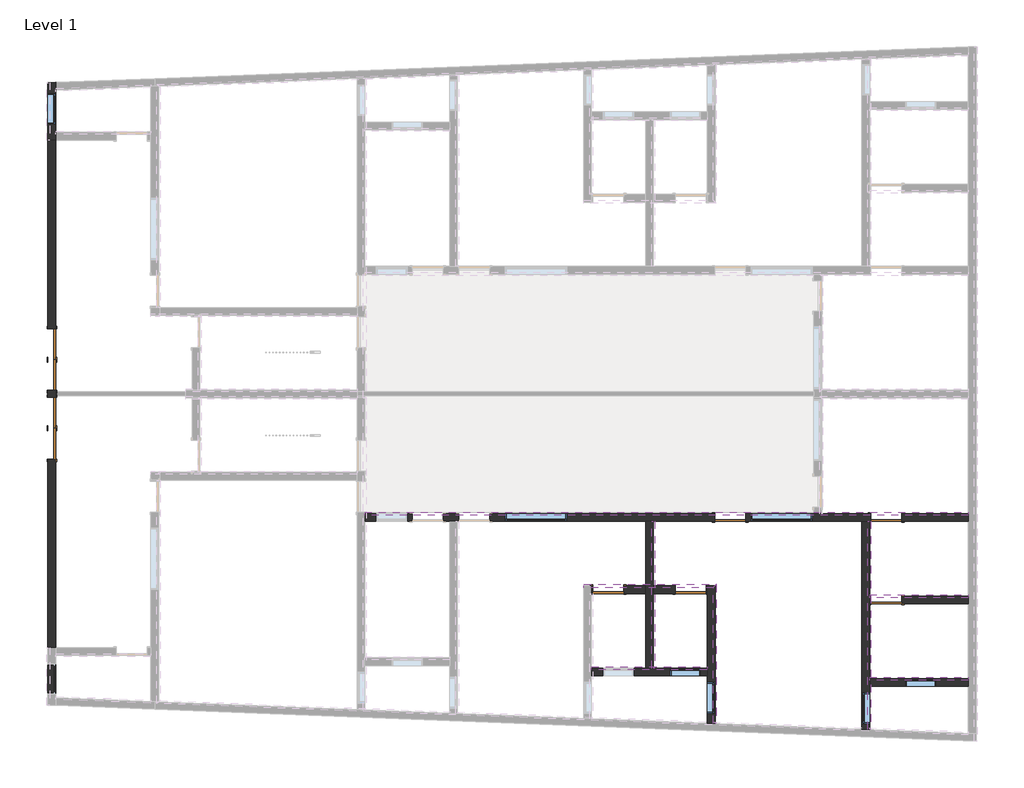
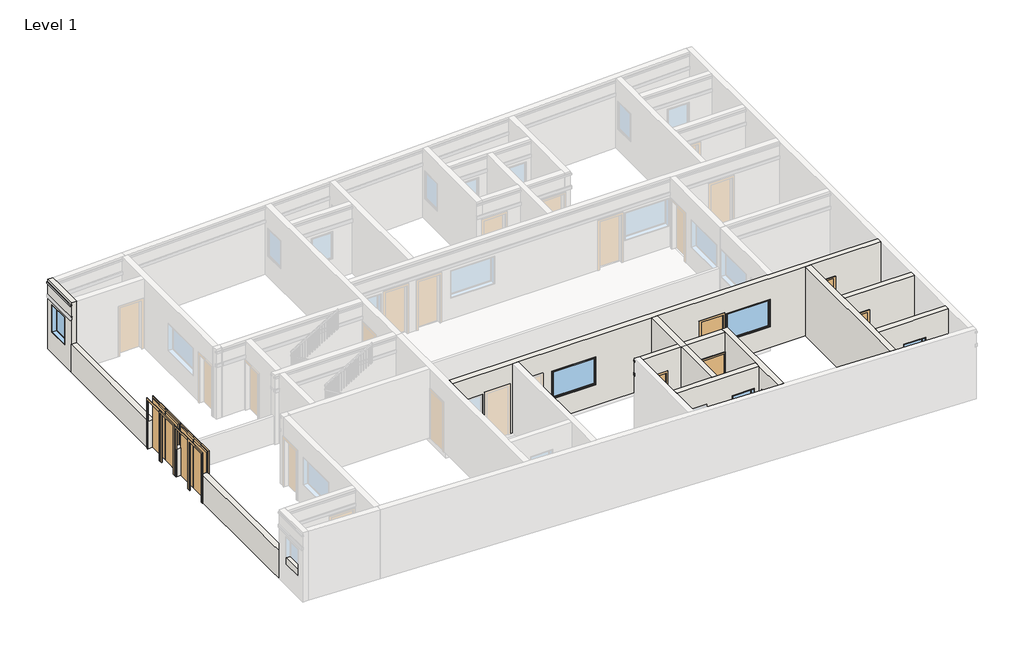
# One storey, part 2 of 5: 17 proxies, 10 walls, 9 doors, 7 windows.
"""IFC4 building model written with IfcOpenShell, lengths in millimetres."""

from ifc_helpers import new_model, si_unit, frame, origin, place, context, project, spatial, polyline, outline, extrude, faceted_brep, transform, mapped, element, save
from components import door_0ca8825f, door_a90ba1ad, window_c1f32544, window_26734613, fixed_6_x4_596a66d7

model = new_model("IFC4")

# Units and contexts
model_context = context("Model", 3, world=origin())
ifc_project = project(units=[si_unit("LENGTHUNIT", "METRE", prefix="MILLI")], contexts=[model_context])

# Site, building, storey
site = spatial("IfcSite", under=ifc_project)
building = spatial("IfcBuilding", under=site)
storey = spatial("IfcBuildingStorey", under=building, Name="Level 1", Elevation=0.0)

# Proxies
placement = place(None, origin())
element("IfcBuildingElementProxy", 1, Name="Reveals", at=placement, inside=storey, context=model_context, shape_type="SweptSolid", body=[
    extrude(outline(polyline([(-17227.4642301, 12662.6112925), (-17135.3892301, 12666.1919869), (-17135.3892301, 10962.8239224), (-17227.4642301, 10962.8239224), (-17227.4642301, 12662.6112925)])), frame((0.0, 0.0, 2895.6), z_axis=(0.0, 0.0, 1.0), x_axis=(1.0, 0.0, 0.0)), (0.0, 0.0, 1.0), 67.7333333),
])
element("IfcBuildingElementProxy", 2, Name="Reveals", at=placement, inside=storey, context=model_context, shape_type="SweptSolid", body=[
    extrude(outline(polyline([(-7813.5892301, -136.9760776), (-7813.5892301, -44.9010776), (10042.6107699, -44.9010776), (10042.6107699, -136.9760776), (-7813.5892301, -136.9760776)])), frame((0.0, 0.0, 2895.6), z_axis=(0.0, 0.0, 1.0), x_axis=(1.0, 0.0, 0.0)), (0.0, 0.0, 1.0), 67.7333333),
])
element("IfcBuildingElementProxy", 3, Name="Reveals", at=placement, inside=storey, context=model_context, shape_type="SweptSolid", body=[
    extrude(outline(polyline([(670.0107699, -314.7760776), (762.0857699, -314.7760776), (762.0857699, -4658.1760776), (670.0107699, -4658.1760776), (670.0107699, -314.7760776)])), frame((0.0, 0.0, 2895.6), z_axis=(0.0, 0.0, 1.0), x_axis=(1.0, 0.0, 0.0)), (0.0, 0.0, 1.0), 67.7333333),
])
element("IfcBuildingElementProxy", 4, Name="Reveals", at=placement, inside=storey, context=model_context, shape_type="SweptSolid", body=[
    extrude(outline(polyline([(2498.8107699, -2270.5760776), (2590.8857699, -2178.5010776), (2590.8857699, -6288.6991242), (2498.8107699, -6288.6991242), (2498.8107699, -2270.5760776)])), frame((0.0, 0.0, 2895.6), z_axis=(0.0, 0.0, 1.0), x_axis=(1.0, 0.0, 0.0)), (0.0, 0.0, 1.0), 67.7333333),
])
element("IfcBuildingElementProxy", 5, Name="Reveals", at=placement, inside=storey, context=model_context, shape_type="SweptSolid", body=[
    extrude(outline(polyline([(7070.8107699, -314.7760776), (7162.8857699, -314.7760776), (7162.8857699, -6466.4991242), (7070.8107699, -6466.4991242), (7070.8107699, -314.7760776)])), frame((0.0, 0.0, 2895.6), z_axis=(0.0, 0.0, 1.0), x_axis=(1.0, 0.0, 0.0)), (0.0, 0.0, 1.0), 67.7333333),
])
element("IfcBuildingElementProxy", 6, Name="Reveals", at=placement, inside=storey, context=model_context, shape_type="SweptSolid", body=[
    extrude(outline(polyline([(-1107.9892301, -4708.9760776), (-1107.9892301, -4616.9010776), (2321.0107699, -4616.9010776), (2321.0107699, -4708.9760776), (-1107.9892301, -4708.9760776)])), frame((0.0, 0.0, 2895.6), z_axis=(0.0, 0.0, 1.0), x_axis=(1.0, 0.0, 0.0)), (0.0, 0.0, 1.0), 67.7333333),
])
element("IfcBuildingElementProxy", 7, Name="Reveals", at=placement, inside=storey, context=model_context, shape_type="SweptSolid", body=[
    extrude(outline(polyline([(7121.6107699, -2575.3760776), (7121.6107699, -2483.3010776), (10042.6107699, -2483.3010776), (10042.6107699, -2575.3760776), (7121.6107699, -2575.3760776)])), frame((0.0, 0.0, 2895.6), z_axis=(0.0, 0.0, 1.0), x_axis=(1.0, 0.0, 0.0)), (0.0, 0.0, 1.0), 67.7333333),
])
element("IfcBuildingElementProxy", 8, Name="Reveals", at=placement, inside=storey, context=model_context, shape_type="SweptSolid", body=[
    extrude(outline(polyline([(7121.6107699, -5013.7760776), (7121.6107699, -4921.7010776), (10042.6107699, -4921.7010776), (10042.6107699, -5013.7760776), (7121.6107699, -5013.7760776)])), frame((0.0, 0.0, 2895.6), z_axis=(0.0, 0.0, 1.0), x_axis=(1.0, 0.0, 0.0)), (0.0, 0.0, 1.0), 67.7333333),
])
element("IfcBuildingElementProxy", 9, Name="Reveals", at=placement, inside=storey, context=model_context, shape_type="SweptSolid", body=[
    extrude(outline(polyline([(-1336.5892301, -2270.5760776), (-1336.5892301, -2178.5010776), (2590.8857699, -2178.5010776), (2498.8107699, -2270.5760776), (-1336.5892301, -2270.5760776)])), frame((0.0, 0.0, 2895.6), z_axis=(0.0, 0.0, 1.0), x_axis=(1.0, 0.0, 0.0)), (0.0, 0.0, 1.0), 67.7333333),
])
element("IfcBuildingElementProxy", 10, Name="Reveals", at=placement, inside=storey, context=model_context, shape_type="SweptSolid", body=[
    extrude(outline(polyline([(-7813.5892301, -136.9760776), (-7813.5892301, -44.9010776), (10042.6107699, -44.9010776), (10042.6107699, -136.9760776), (-7813.5892301, -136.9760776)])), frame((0.0, 0.0, 2286.0), z_axis=(0.0, 0.0, 1.0), x_axis=(1.0, 0.0, 0.0)), (0.0, 0.0, 1.0), 135.4666667),
])
element("IfcBuildingElementProxy", 11, Name="Reveals", at=placement, inside=storey, context=model_context, shape_type="SweptSolid", body=[
    extrude(outline(polyline([(670.0107699, -314.7760776), (762.0857699, -314.7760776), (762.0857699, -4658.1760776), (670.0107699, -4658.1760776), (670.0107699, -314.7760776)])), frame((0.0, 0.0, 2286.0), z_axis=(0.0, 0.0, 1.0), x_axis=(1.0, 0.0, 0.0)), (0.0, 0.0, 1.0), 135.4666667),
])
element("IfcBuildingElementProxy", 12, Name="Reveals", at=placement, inside=storey, context=model_context, shape_type="SweptSolid", body=[
    extrude(outline(polyline([(2498.8107699, -2270.5760776), (2590.8857699, -2178.5010776), (2590.8857699, -6288.6991242), (2498.8107699, -6288.6991242), (2498.8107699, -2270.5760776)])), frame((0.0, 0.0, 2286.0), z_axis=(0.0, 0.0, 1.0), x_axis=(1.0, 0.0, 0.0)), (0.0, 0.0, 1.0), 135.4666667),
])
element("IfcBuildingElementProxy", 13, Name="Reveals", at=placement, inside=storey, context=model_context, shape_type="SweptSolid", body=[
    extrude(outline(polyline([(7070.8107699, -314.7760776), (7162.8857699, -314.7760776), (7162.8857699, -6466.4991242), (7070.8107699, -6466.4991242), (7070.8107699, -314.7760776)])), frame((0.0, 0.0, 2286.0), z_axis=(0.0, 0.0, 1.0), x_axis=(1.0, 0.0, 0.0)), (0.0, 0.0, 1.0), 135.4666667),
])
element("IfcBuildingElementProxy", 14, Name="Reveals", at=placement, inside=storey, context=model_context, shape_type="SweptSolid", body=[
    extrude(outline(polyline([(-1107.9892301, -4708.9760776), (-1107.9892301, -4616.9010776), (2321.0107699, -4616.9010776), (2321.0107699, -4708.9760776), (-1107.9892301, -4708.9760776)])), frame((0.0, 0.0, 2286.0), z_axis=(0.0, 0.0, 1.0), x_axis=(1.0, 0.0, 0.0)), (0.0, 0.0, 1.0), 135.4666667),
])
element("IfcBuildingElementProxy", 15, Name="Reveals", at=placement, inside=storey, context=model_context, shape_type="SweptSolid", body=[
    extrude(outline(polyline([(7121.6107699, -2575.3760776), (7121.6107699, -2483.3010776), (10042.6107699, -2483.3010776), (10042.6107699, -2575.3760776), (7121.6107699, -2575.3760776)])), frame((0.0, 0.0, 2286.0), z_axis=(0.0, 0.0, 1.0), x_axis=(1.0, 0.0, 0.0)), (0.0, 0.0, 1.0), 135.4666667),
])
element("IfcBuildingElementProxy", 16, Name="Reveals", at=placement, inside=storey, context=model_context, shape_type="SweptSolid", body=[
    extrude(outline(polyline([(7121.6107699, -5013.7760776), (7121.6107699, -4921.7010776), (10042.6107699, -4921.7010776), (10042.6107699, -5013.7760776), (7121.6107699, -5013.7760776)])), frame((0.0, 0.0, 2286.0), z_axis=(0.0, 0.0, 1.0), x_axis=(1.0, 0.0, 0.0)), (0.0, 0.0, 1.0), 135.4666667),
])
element("IfcBuildingElementProxy", 17, Name="Reveals", at=placement, inside=storey, context=model_context, shape_type="SweptSolid", body=[
    extrude(outline(polyline([(-1336.5892301, -2270.5760776), (-1336.5892301, -2178.5010776), (2590.8857699, -2178.5010776), (2498.8107699, -2270.5760776), (-1336.5892301, -2270.5760776)])), frame((0.0, 0.0, 2286.0), z_axis=(0.0, 0.0, 1.0), x_axis=(1.0, 0.0, 0.0)), (0.0, 0.0, 1.0), 135.4666667),
])

# Doors
door_shape = door_0ca8825f(model_context)
element("IfcDoor", 18, ObjectType="Single-Flush : 36\" x 84\"", at=placement, inside=storey, context=model_context, shape_type="MappedRepresentation", body=[
    mapped(door_shape, transform((-17071.8892301, 4015.9239224, 0.0), x_axis=(0.0, -1.0, 0.0), y_axis=(1.0, 0.0, 0.0), z_axis=(0.0, 0.0, 1.0))),
])
element("IfcDoor", 19, ObjectType="Single-Flush : 36\" x 84\"", at=placement, inside=storey, context=model_context, shape_type="MappedRepresentation", body=[
    mapped(door_shape, transform((-612.6892301, -2334.0760776, 0.0), x_axis=(-1.0, 0.0, 0.0), y_axis=(0.0, -1.0, 0.0), z_axis=(0.0, 0.0, 1.0))),
])
element("IfcDoor", 20, ObjectType="Single-Flush : 36\" x 84\"", at=placement, inside=storey, context=model_context, shape_type="MappedRepresentation", body=[
    mapped(door_shape, transform((7616.9107699, -200.4760776, 0.0), x_axis=(-1.0, 0.0, 0.0), y_axis=(0.0, -1.0, 0.0), z_axis=(0.0, 0.0, 1.0))),
])
element("IfcDoor", 21, ObjectType="Single-Flush : 36\" x 84\"", at=placement, inside=storey, context=model_context, shape_type="MappedRepresentation", body=[
    mapped(door_shape, transform((2994.1107699, -200.4760776, 0.0), x_axis=(-1.0, 0.0, 0.0), y_axis=(0.0, -1.0, 0.0), z_axis=(0.0, 0.0, 1.0))),
])
element("IfcDoor", 22, ObjectType="Single-Flush : 36\" x 84\"", at=placement, inside=storey, context=model_context, shape_type="MappedRepresentation", body=[
    mapped(door_shape, transform((-17071.8892301, 1983.9239224, 0.0), x_axis=(0.0, -1.0, 0.0), y_axis=(1.0, 0.0, 0.0), z_axis=(0.0, 0.0, 1.0))),
])
element("IfcDoor", 23, ObjectType="Single-Flush : 36\" x 84\"", at=placement, inside=storey, context=model_context, shape_type="MappedRepresentation", body=[
    mapped(door_shape, transform((7616.9107699, -2638.8760776, 0.0), x_axis=(-1.0, 0.0, 0.0), y_axis=(0.0, -1.0, 0.0), z_axis=(0.0, 0.0, 1.0))),
])
door_2_shape = door_a90ba1ad(model_context)
element("IfcDoor", 24, ObjectType="Single-Flush : 36\" x 84\"", at=placement, inside=storey, context=model_context, shape_type="MappedRepresentation", body=[
    mapped(door_2_shape, transform((-17071.8892301, 4930.3239224, 0.0), x_axis=(0.0, 1.0, 0.0), y_axis=(-1.0, 0.0, 0.0), z_axis=(0.0, 0.0, 1.0))),
])
element("IfcDoor", 25, ObjectType="Single-Flush : 36\" x 84\"", at=placement, inside=storey, context=model_context, shape_type="MappedRepresentation", body=[
    mapped(door_2_shape, transform((1825.7107699, -2334.0760776, 0.0), x_axis=(1.0, 0.0, 0.0), y_axis=(0.0, 1.0, 0.0), z_axis=(0.0, 0.0, 1.0))),
])
element("IfcDoor", 26, ObjectType="Single-Flush : 36\" x 84\"", at=placement, inside=storey, context=model_context, shape_type="MappedRepresentation", body=[
    mapped(door_2_shape, transform((-17071.8892301, 2898.3239224, 0.0), x_axis=(0.0, 1.0, 0.0), y_axis=(-1.0, 0.0, 0.0), z_axis=(0.0, 0.0, 1.0))),
])

# Walls
element("IfcWall", 27, ObjectType="9\" thick brick wall", at=placement, inside=storey, context=model_context, shape_type="Brep", body=[
    faceted_brep([(-17186.1892301, 12664.2164314, 0.0), (-17186.1892301, 10962.8239224, 0.0), (-17186.1892301, 10962.8239224, 1219.2), (-17186.1892301, 10962.8239224, 2286.0), (-17186.1892301, 12664.2164314, 2286.0), (-17186.1892301, 11432.7239224, 2133.6), (-17186.1892301, 11432.7239224, 914.4), (-17186.1892301, 12347.1239224, 914.4), (-17186.1892301, 12347.1239224, 2133.6), (-17186.1892301, 10962.8239224, 3048.0), (-17186.1892301, 12664.2164314, 3048.0), (-17186.1892301, 12664.2164314, 2963.3333333), (-17186.1892301, 10962.8239224, 2963.3333333), (-17186.1892301, 10962.8239224, 2895.6), (-17186.1892301, 12664.2164314, 2895.6), (-17186.1892301, 12664.2164314, 2421.4666667), (-17186.1892301, 10962.8239224, 2421.4666667), (-16957.5892301, 10962.8239224, 0.0), (-16957.5892301, 11191.4239224, 0.0), (-16957.5892301, 12444.3336356, 0.0), (-16957.5892301, 12673.1064314, 0.0), (-16957.5892301, 12673.1064314, 3048.0), (-16957.5892301, 12444.3336356, 3048.0), (-16957.5892301, 11191.4239224, 3048.0), (-16957.5892301, 10962.8239224, 3048.0), (-16957.5892301, 11432.7239224, 914.4), (-16957.5892301, 11432.7239224, 2133.6), (-16957.5892301, 12347.1239224, 2133.6), (-16957.5892301, 12347.1239224, 914.4), (-17135.3892301, 12666.1919869, 2286.0), (-17135.3892301, 12666.1919869, 2421.4666667), (-17135.3892301, 12666.1919869, 2895.6), (-17135.3892301, 12666.1919869, 2963.3333333), (-17135.3892301, 10962.8239224, 2963.3333333), (-17135.3892301, 10962.8239224, 2895.6), (-17135.3892301, 10962.8239224, 2421.4666667), (-17135.3892301, 10962.8239224, 2286.0)], [[[0, 1, 2, 3, 4], [5, 6, 7, 8]], [[9, 10, 11, 12]], [[13, 14, 15, 16]], [[17, 18, 19, 20, 21, 22, 23, 24], [25, 26, 27, 28]], [[1, 0, 20, 19, 18, 17]], [[10, 9, 24, 23, 22, 21]], [[10, 21, 20, 0, 4, 29, 30, 15, 14, 31, 32, 11]], [[1, 17, 24, 9, 12, 33, 34, 13, 16, 35, 36, 3, 2]], [[6, 5, 26, 25]], [[7, 6, 25, 28]], [[8, 7, 28, 27]], [[5, 8, 27, 26]], [[33, 32, 31, 34]], [[34, 31, 14, 13]], [[32, 33, 12, 11]], [[35, 30, 29, 36]], [[36, 29, 4, 3]], [[30, 35, 16, 15]]]),
])
element("IfcWall", 28, ObjectType="9\" thick brick wall", at=placement, inside=storey, context=model_context, shape_type="Brep", body=[
    faceted_brep([(-17186.1892301, 10962.8239224, 1219.2), (-17186.1892301, 10962.8239224, 0.0), (-17186.1892301, 5387.5239224, 0.0), (-17186.1892301, 5387.5239224, 1219.2), (-16957.5892301, 10962.8239224, 0.0), (-16957.5892301, 10962.8239224, 1219.2), (-16957.5892301, 5387.5239224, 1219.2), (-16957.5892301, 5387.5239224, 0.0)], [[[0, 1, 2, 3]], [[4, 5, 6, 7]], [[1, 4, 7, 2]], [[5, 0, 3, 6]], [[1, 0, 5, 4]], [[3, 2, 7, 6]]]),
    faceted_brep([(-17186.1892301, -5521.1957908, 0.0), (-17186.1892301, -5521.1957908, 1219.2), (-17186.1892301, 1526.7239224, 1219.2), (-17186.1892301, 1526.7239224, 0.0), (-16957.5892301, -5530.0857908, 1219.2), (-16957.5892301, -5530.0857908, 0.0), (-16957.5892301, 1526.7239224, 0.0), (-16957.5892301, 1526.7239224, 1219.2)], [[[0, 1, 2, 3]], [[4, 5, 6, 7]], [[5, 0, 3, 6]], [[1, 4, 7, 2]], [[1, 0, 5, 4]], [[3, 2, 7, 6]]]),
    faceted_brep([(-17186.1892301, 3558.7239224, 1219.2), (-17186.1892301, 3558.7239224, 0.0), (-17186.1892301, 3355.5239224, 0.0), (-17186.1892301, 3355.5239224, 1219.2), (-16957.5892301, 3558.7239224, 0.0), (-16957.5892301, 3558.7239224, 1219.2), (-16957.5892301, 3514.2739224, 1219.2), (-16957.5892301, 3399.9739224, 1219.2), (-16957.5892301, 3355.5239224, 1219.2), (-16957.5892301, 3355.5239224, 0.0), (-16957.5892301, 3399.9739224, 0.0), (-16957.5892301, 3514.2739224, 0.0)], [[[0, 1, 2, 3]], [[4, 5, 6, 7, 8, 9, 10, 11]], [[1, 4, 11, 10, 9, 2]], [[5, 0, 3, 8, 7, 6]], [[1, 0, 5, 4]], [[3, 2, 9, 8]]]),
])
element("IfcWall", 29, ObjectType="9\" thick brick wall", at=placement, inside=storey, context=model_context, shape_type="Brep", body=[
    faceted_brep([(10042.6107699, -314.7760776, 3048.0), (7121.6107699, -314.7760776, 3048.0), (6893.0107699, -314.7760776, 3048.0), (720.8107699, -314.7760776, 3048.0), (492.2107699, -314.7760776, 3048.0), (-5070.3892301, -314.7760776, 3048.0), (-5298.9892301, -314.7760776, 3048.0), (-7813.5892301, -314.7760776, 3048.0), (-7813.5892301, -314.7760776, 0.0), (-6403.8892301, -314.7760776, 0.0), (-6403.8892301, -314.7760776, 2133.6), (-5489.4892301, -314.7760776, 2133.6), (-5489.4892301, -314.7760776, 0.0), (-5298.9892301, -314.7760776, 0.0), (-5070.3892301, -314.7760776, 0.0), (-5032.2892301, -314.7760776, 0.0), (-5032.2892301, -314.7760776, 2133.6), (-4117.8892301, -314.7760776, 2133.6), (-4117.8892301, -314.7760776, 0.0), (492.2107699, -314.7760776, 0.0), (720.8107699, -314.7760776, 0.0), (2536.9107699, -314.7760776, 0.0), (2536.9107699, -314.7760776, 2133.6), (3451.3107699, -314.7760776, 2133.6), (3451.3107699, -314.7760776, 0.0), (6893.0107699, -314.7760776, 0.0), (7121.6107699, -314.7760776, 0.0), (7159.7107699, -314.7760776, 0.0), (7159.7107699, -314.7760776, 2133.6), (8074.1107699, -314.7760776, 2133.6), (8074.1107699, -314.7760776, 0.0), (10042.6107699, -314.7760776, 0.0), (-1831.8892301, -314.7760776, 2133.6), (-1831.8892301, -314.7760776, 914.4), (-3660.6892301, -314.7760776, 914.4), (-3660.6892301, -314.7760776, 2133.6), (5432.5107699, -314.7760776, 2133.6), (5432.5107699, -314.7760776, 914.4), (3603.7107699, -314.7760776, 914.4), (3603.7107699, -314.7760776, 2133.6), (-7470.6892301, -314.7760776, 914.4), (-7470.6892301, -314.7760776, 2133.6), (-6556.2892301, -314.7760776, 2133.6), (-6556.2892301, -314.7760776, 914.4), (-7813.5892301, -86.1760776, 3048.0), (5470.6107699, -86.1760776, 3048.0), (5699.2107699, -86.1760776, 3048.0), (10042.6107699, -86.1760776, 3048.0), (10042.6107699, -86.1760776, 2963.3333333), (5699.2107699, -86.1760776, 2963.3333333), (5648.4107699, -86.1760776, 2963.3333333), (-7813.5892301, -86.1760776, 2963.3333333), (-5489.4892301, -86.1760776, 0.0), (-5489.4892301, -86.1760776, 2133.6), (-6403.8892301, -86.1760776, 2133.6), (-6403.8892301, -86.1760776, 0.0), (-7813.5892301, -86.1760776, 0.0), (-7813.5892301, -86.1760776, 2286.0), (5648.4107699, -86.1760776, 2286.0), (5699.2107699, -86.1760776, 2286.0), (10042.6107699, -86.1760776, 2286.0), (10042.6107699, -86.1760776, 0.0), (8074.1107699, -86.1760776, 0.0), (8074.1107699, -86.1760776, 2133.6), (7159.7107699, -86.1760776, 2133.6), (7159.7107699, -86.1760776, 0.0), (5699.2107699, -86.1760776, 0.0), (5470.6107699, -86.1760776, 0.0), (3451.3107699, -86.1760776, 0.0), (3451.3107699, -86.1760776, 2133.6), (2536.9107699, -86.1760776, 2133.6), (2536.9107699, -86.1760776, 0.0), (-4117.8892301, -86.1760776, 0.0), (-4117.8892301, -86.1760776, 2133.6), (-5032.2892301, -86.1760776, 2133.6), (-5032.2892301, -86.1760776, 0.0), (-1831.8892301, -86.1760776, 914.4), (-1831.8892301, -86.1760776, 2133.6), (-3660.6892301, -86.1760776, 2133.6), (-3660.6892301, -86.1760776, 914.4), (5432.5107699, -86.1760776, 914.4), (5432.5107699, -86.1760776, 2133.6), (3603.7107699, -86.1760776, 2133.6), (3603.7107699, -86.1760776, 914.4), (-7470.6892301, -86.1760776, 2133.6), (-7470.6892301, -86.1760776, 914.4), (-6556.2892301, -86.1760776, 914.4), (-6556.2892301, -86.1760776, 2133.6), (-7813.5892301, -86.1760776, 2895.6), (5648.4107699, -86.1760776, 2895.6), (5699.2107699, -86.1760776, 2895.6), (10042.6107699, -86.1760776, 2895.6), (10042.6107699, -86.1760776, 2421.4666667), (5699.2107699, -86.1760776, 2421.4666667), (5648.4107699, -86.1760776, 2421.4666667), (-7813.5892301, -86.1760776, 2421.4666667), (-7813.5892301, -136.9760776, 2963.3333333), (-7813.5892301, -136.9760776, 2895.6), (-7813.5892301, -136.9760776, 2421.4666667), (-7813.5892301, -136.9760776, 2286.0), (10042.6107699, -136.9760776, 2286.0), (10042.6107699, -136.9760776, 2421.4666667), (10042.6107699, -136.9760776, 2895.6), (10042.6107699, -136.9760776, 2963.3333333)], [[[0, 1, 2, 3, 4, 5, 6, 7, 8, 9, 10, 11, 12, 13, 14, 15, 16, 17, 18, 19, 20, 21, 22, 23, 24, 25, 26, 27, 28, 29, 30, 31], [32, 33, 34, 35], [36, 37, 38, 39], [40, 41, 42, 43]], [[44, 45, 46, 47, 48, 49, 50, 51]], [[52, 53, 54, 55, 56, 57, 58, 59, 60, 61, 62, 63, 64, 65, 66, 67, 68, 69, 70, 71, 72, 73, 74, 75], [76, 77, 78, 79], [80, 81, 82, 83], [84, 85, 86, 87]], [[88, 89, 90, 91, 92, 93, 94, 95]], [[8, 56, 55, 9]], [[61, 31, 30, 62]], [[12, 52, 75, 15, 14, 13]], [[18, 72, 71, 21, 20, 19]], [[65, 27, 26, 25, 24, 68, 67, 66]], [[7, 6, 5, 4, 3, 2, 1, 0, 47, 46, 45, 44]], [[8, 7, 44, 51, 96, 97, 88, 95, 98, 99, 57, 56]], [[0, 31, 61, 60, 100, 101, 92, 91, 102, 103, 48, 47]], [[53, 52, 12, 11]], [[54, 53, 11, 10]], [[55, 54, 10, 9]], [[16, 15, 75, 74]], [[17, 16, 74, 73]], [[18, 17, 73, 72]], [[28, 27, 65, 64]], [[29, 28, 64, 63]], [[30, 29, 63, 62]], [[22, 21, 71, 70]], [[23, 22, 70, 69]], [[24, 23, 69, 68]], [[33, 32, 77, 76]], [[34, 33, 76, 79]], [[35, 34, 79, 78]], [[32, 35, 78, 77]], [[37, 36, 81, 80]], [[38, 37, 80, 83]], [[39, 38, 83, 82]], [[36, 39, 82, 81]], [[85, 84, 41, 40]], [[86, 85, 40, 43]], [[87, 86, 43, 42]], [[84, 87, 42, 41]], [[103, 96, 51, 50, 49, 48]], [[97, 102, 91, 90, 89, 88]], [[96, 103, 102, 97]], [[101, 98, 95, 94, 93, 92]], [[99, 100, 60, 59, 58, 57]], [[98, 101, 100, 99]]]),
])
element("IfcWall", 30, ObjectType="9\" thick brick wall", at=placement, inside=storey, context=model_context, shape_type="SweptSolid", body=[
    extrude(outline(polyline([(3048.0, 492.2107699), (0.0, 492.2107699), (0.0, 720.8107699), (2286.0, 720.8107699), (2286.0, 670.0107699), (2421.4666667, 670.0107699), (2421.4666667, 720.8107699), (2895.6, 720.8107699), (2895.6, 670.0107699), (2963.3333333, 670.0107699), (2963.3333333, 720.8107699), (3048.0, 720.8107699), (3048.0, 492.2107699)])), frame((0.0, -4658.1760776, 0.0), z_axis=(0.0, 1.0, 0.0), x_axis=(0.0, 0.0, 1.0)), (0.0, 0.0, 1.0), 4343.4),
])
element("IfcWall", 31, ObjectType="9\" thick brick wall", at=placement, inside=storey, context=model_context, shape_type="Brep", body=[
    faceted_brep([(2321.0107699, -2219.7760776, 0.0), (2321.0107699, -2448.3760776, 0.0), (2321.0107699, -4658.1760776, 0.0), (2321.0107699, -4886.7760776, 0.0), (2321.0107699, -6279.8091242, 0.0), (2321.0107699, -6279.8091242, 3048.0), (2321.0107699, -4886.7760776, 3048.0), (2321.0107699, -4658.1760776, 3048.0), (2321.0107699, -2448.3760776, 3048.0), (2321.0107699, -2219.7760776, 3048.0), (2321.0107699, -2219.7760776, 2963.3333333), (2321.0107699, -2270.5760776, 2963.3333333), (2321.0107699, -2270.5760776, 2895.6), (2321.0107699, -2219.7760776, 2895.6), (2321.0107699, -2219.7760776, 2421.4666667), (2321.0107699, -2270.5760776, 2421.4666667), (2321.0107699, -2270.5760776, 2286.0), (2321.0107699, -2219.7760776, 2286.0), (2321.0107699, -5077.2760776, 914.4), (2321.0107699, -5077.2760776, 2133.6), (2321.0107699, -5991.6760776, 2133.6), (2321.0107699, -5991.6760776, 914.4), (2549.6107699, -6288.6991242, 0.0), (2549.6107699, -2219.7760776, 0.0), (2549.6107699, -2219.7760776, 2286.0), (2549.6107699, -6288.6991242, 2286.0), (2549.6107699, -5077.2760776, 2133.6), (2549.6107699, -5077.2760776, 914.4), (2549.6107699, -5991.6760776, 914.4), (2549.6107699, -5991.6760776, 2133.6), (2549.6107699, -2219.7760776, 3048.0), (2549.6107699, -6288.6991242, 3048.0), (2549.6107699, -6288.6991242, 2963.3333333), (2549.6107699, -2219.7760776, 2963.3333333), (2549.6107699, -2219.7760776, 2895.6), (2549.6107699, -6288.6991242, 2895.6), (2549.6107699, -6288.6991242, 2421.4666667), (2549.6107699, -2219.7760776, 2421.4666667), (2498.8107699, -6286.7235686, 2286.0), (2498.8107699, -6286.7235686, 2421.4666667), (2498.8107699, -6286.7235686, 2895.6), (2498.8107699, -6286.7235686, 2963.3333333), (2498.8107699, -2270.5760776, 2963.3333333), (2498.8107699, -2270.5760776, 2895.6), (2498.8107699, -2270.5760776, 2421.4666667), (2498.8107699, -2270.5760776, 2286.0)], [[[0, 1, 2, 3, 4, 5, 6, 7, 8, 9, 10, 11, 12, 13, 14, 15, 16, 17], [18, 19, 20, 21]], [[22, 23, 24, 25], [26, 27, 28, 29]], [[30, 31, 32, 33]], [[34, 35, 36, 37]], [[4, 3, 2, 1, 0, 23, 22]], [[9, 8, 7, 6, 5, 31, 30]], [[9, 30, 33, 10]], [[23, 0, 17, 24]], [[13, 34, 37, 14]], [[5, 4, 22, 25, 38, 39, 36, 35, 40, 41, 32, 31]], [[27, 26, 19, 18]], [[28, 27, 18, 21]], [[29, 28, 21, 20]], [[26, 29, 20, 19]], [[41, 42, 11, 10, 33, 32]], [[12, 43, 40, 35, 34, 13]], [[42, 43, 12, 11]], [[43, 42, 41, 40]], [[39, 44, 15, 14, 37, 36]], [[16, 45, 38, 25, 24, 17]], [[44, 45, 16, 15]], [[45, 44, 39, 38]]]),
])
element("IfcWall", 32, ObjectType="9\" thick brick wall", at=placement, inside=storey, context=model_context, shape_type="Brep", body=[
    faceted_brep([(6893.0107699, -314.7760776, 0.0), (6893.0107699, -6457.6091242, 0.0), (6893.0107699, -6457.6091242, 3048.0), (6893.0107699, -314.7760776, 3048.0), (6893.0107699, -6296.4760776, 2133.6), (6893.0107699, -6296.4760776, 914.4), (6893.0107699, -5382.0760776, 914.4), (6893.0107699, -5382.0760776, 2133.6), (7121.6107699, -6466.4991242, 0.0), (7121.6107699, -5191.5760776, 0.0), (7121.6107699, -4962.9760776, 0.0), (7121.6107699, -2753.1760776, 0.0), (7121.6107699, -2524.5760776, 0.0), (7121.6107699, -314.7760776, 0.0), (7121.6107699, -314.7760776, 2286.0), (7121.6107699, -6466.4991242, 2286.0), (7121.6107699, -6296.4760776, 914.4), (7121.6107699, -6296.4760776, 2133.6), (7121.6107699, -5382.0760776, 2133.6), (7121.6107699, -5382.0760776, 914.4), (7121.6107699, -314.7760776, 3048.0), (7121.6107699, -2524.5760776, 3048.0), (7121.6107699, -2753.1760776, 3048.0), (7121.6107699, -4962.9760776, 3048.0), (7121.6107699, -5191.5760776, 3048.0), (7121.6107699, -6466.4991242, 3048.0), (7121.6107699, -6466.4991242, 2963.3333333), (7121.6107699, -314.7760776, 2963.3333333), (7121.6107699, -314.7760776, 2895.6), (7121.6107699, -6466.4991242, 2895.6), (7121.6107699, -6466.4991242, 2421.4666667), (7121.6107699, -314.7760776, 2421.4666667), (7070.8107699, -314.7760776, 2963.3333333), (7070.8107699, -314.7760776, 2895.6), (7070.8107699, -314.7760776, 2421.4666667), (7070.8107699, -314.7760776, 2286.0), (7070.8107699, -6464.5235686, 2286.0), (7070.8107699, -6464.5235686, 2421.4666667), (7070.8107699, -6464.5235686, 2895.6), (7070.8107699, -6464.5235686, 2963.3333333)], [[[0, 1, 2, 3], [4, 5, 6, 7]], [[8, 9, 10, 11, 12, 13, 14, 15], [16, 17, 18, 19]], [[20, 21, 22, 23, 24, 25, 26, 27]], [[28, 29, 30, 31]], [[1, 0, 13, 12, 11, 10, 9, 8]], [[3, 2, 25, 24, 23, 22, 21, 20]], [[0, 3, 20, 27, 32, 33, 28, 31, 34, 35, 14, 13]], [[2, 1, 8, 15, 36, 37, 30, 29, 38, 39, 26, 25]], [[5, 4, 17, 16]], [[6, 5, 16, 19]], [[7, 6, 19, 18]], [[4, 7, 18, 17]], [[39, 32, 27, 26]], [[33, 38, 29, 28]], [[38, 33, 32, 39]], [[37, 34, 31, 30]], [[35, 36, 15, 14]], [[34, 37, 36, 35]]]),
])
element("IfcWall", 33, ObjectType="9\" thick brick wall", at=placement, inside=storey, context=model_context, shape_type="Brep", body=[
    faceted_brep([(-1107.9892301, -4886.7760776, 0.0), (2321.0107699, -4886.7760776, 0.0), (2321.0107699, -4886.7760776, 3048.0), (-1107.9892301, -4886.7760776, 3048.0), (1216.1107699, -4886.7760776, 914.4), (1216.1107699, -4886.7760776, 2133.6), (2130.5107699, -4886.7760776, 2133.6), (2130.5107699, -4886.7760776, 914.4), (-765.0892301, -4886.7760776, 914.4), (-765.0892301, -4886.7760776, 2133.6), (149.3107699, -4886.7760776, 2133.6), (149.3107699, -4886.7760776, 914.4), (2321.0107699, -4658.1760776, 0.0), (720.8107699, -4658.1760776, 0.0), (492.2107699, -4658.1760776, 0.0), (-1107.9892301, -4658.1760776, 0.0), (-1107.9892301, -4658.1760776, 2286.0), (670.0107699, -4658.1760776, 2286.0), (720.8107699, -4658.1760776, 2286.0), (2321.0107699, -4658.1760776, 2286.0), (1216.1107699, -4658.1760776, 2133.6), (1216.1107699, -4658.1760776, 914.4), (2130.5107699, -4658.1760776, 914.4), (2130.5107699, -4658.1760776, 2133.6), (-765.0892301, -4658.1760776, 2133.6), (-765.0892301, -4658.1760776, 914.4), (149.3107699, -4658.1760776, 914.4), (149.3107699, -4658.1760776, 2133.6), (-1107.9892301, -4658.1760776, 3048.0), (492.2107699, -4658.1760776, 3048.0), (720.8107699, -4658.1760776, 3048.0), (2321.0107699, -4658.1760776, 3048.0), (2321.0107699, -4658.1760776, 2963.3333333), (720.8107699, -4658.1760776, 2963.3333333), (670.0107699, -4658.1760776, 2963.3333333), (-1107.9892301, -4658.1760776, 2963.3333333), (-1107.9892301, -4658.1760776, 2895.6), (670.0107699, -4658.1760776, 2895.6), (720.8107699, -4658.1760776, 2895.6), (2321.0107699, -4658.1760776, 2895.6), (2321.0107699, -4658.1760776, 2421.4666667), (720.8107699, -4658.1760776, 2421.4666667), (670.0107699, -4658.1760776, 2421.4666667), (-1107.9892301, -4658.1760776, 2421.4666667), (-1107.9892301, -4708.9760776, 2963.3333333), (-1107.9892301, -4708.9760776, 2895.6), (-1107.9892301, -4708.9760776, 2421.4666667), (-1107.9892301, -4708.9760776, 2286.0), (2321.0107699, -4708.9760776, 2286.0), (2321.0107699, -4708.9760776, 2421.4666667), (2321.0107699, -4708.9760776, 2895.6), (2321.0107699, -4708.9760776, 2963.3333333)], [[[0, 1, 2, 3], [4, 5, 6, 7], [8, 9, 10, 11]], [[12, 13, 14, 15, 16, 17, 18, 19], [20, 21, 22, 23], [24, 25, 26, 27]], [[28, 29, 30, 31, 32, 33, 34, 35]], [[36, 37, 38, 39, 40, 41, 42, 43]], [[1, 0, 15, 14, 13, 12]], [[3, 2, 31, 30, 29, 28]], [[0, 3, 28, 35, 44, 45, 36, 43, 46, 47, 16, 15]], [[2, 1, 12, 19, 48, 49, 40, 39, 50, 51, 32, 31]], [[21, 20, 5, 4]], [[22, 21, 4, 7]], [[23, 22, 7, 6]], [[20, 23, 6, 5]], [[25, 24, 9, 8]], [[26, 25, 8, 11]], [[27, 26, 11, 10]], [[24, 27, 10, 9]], [[51, 44, 35, 34, 33, 32]], [[45, 50, 39, 38, 37, 36]], [[44, 51, 50, 45]], [[49, 46, 43, 42, 41, 40]], [[47, 48, 19, 18, 17, 16]], [[46, 49, 48, 47]]]),
])
element("IfcWall", 34, ObjectType="9\" thick brick wall", at=placement, inside=storey, context=model_context, shape_type="Brep", body=[
    faceted_brep([(10042.6107699, -2753.1760776, 3048.0), (7121.6107699, -2753.1760776, 3048.0), (7121.6107699, -2753.1760776, 0.0), (7159.7107699, -2753.1760776, 0.0), (7159.7107699, -2753.1760776, 2133.6), (8074.1107699, -2753.1760776, 2133.6), (8074.1107699, -2753.1760776, 0.0), (10042.6107699, -2753.1760776, 0.0), (7121.6107699, -2524.5760776, 3048.0), (10042.6107699, -2524.5760776, 3048.0), (10042.6107699, -2524.5760776, 2963.3333333), (7121.6107699, -2524.5760776, 2963.3333333), (7159.7107699, -2524.5760776, 2133.6), (7159.7107699, -2524.5760776, 0.0), (7121.6107699, -2524.5760776, 0.0), (7121.6107699, -2524.5760776, 2286.0), (10042.6107699, -2524.5760776, 2286.0), (10042.6107699, -2524.5760776, 0.0), (8074.1107699, -2524.5760776, 0.0), (8074.1107699, -2524.5760776, 2133.6), (7121.6107699, -2524.5760776, 2895.6), (10042.6107699, -2524.5760776, 2895.6), (10042.6107699, -2524.5760776, 2421.4666667), (7121.6107699, -2524.5760776, 2421.4666667), (7121.6107699, -2575.3760776, 2963.3333333), (7121.6107699, -2575.3760776, 2895.6), (7121.6107699, -2575.3760776, 2421.4666667), (7121.6107699, -2575.3760776, 2286.0), (10042.6107699, -2575.3760776, 2286.0), (10042.6107699, -2575.3760776, 2421.4666667), (10042.6107699, -2575.3760776, 2895.6), (10042.6107699, -2575.3760776, 2963.3333333)], [[[0, 1, 2, 3, 4, 5, 6, 7]], [[8, 9, 10, 11]], [[12, 13, 14, 15, 16, 17, 18, 19]], [[20, 21, 22, 23]], [[2, 14, 13, 3]], [[17, 7, 6, 18]], [[1, 0, 9, 8]], [[2, 1, 8, 11, 24, 25, 20, 23, 26, 27, 15, 14]], [[0, 7, 17, 16, 28, 29, 22, 21, 30, 31, 10, 9]], [[4, 3, 13, 12]], [[5, 4, 12, 19]], [[6, 5, 19, 18]], [[31, 24, 11, 10]], [[25, 30, 21, 20]], [[24, 31, 30, 25]], [[29, 26, 23, 22]], [[27, 28, 16, 15]], [[26, 29, 28, 27]]]),
])
element("IfcWall", 35, ObjectType="9\" thick brick wall", at=placement, inside=storey, context=model_context, shape_type="Brep", body=[
    faceted_brep([(7121.6107699, -5191.5760776, 0.0), (10042.6107699, -5191.5760776, 0.0), (10042.6107699, -5191.5760776, 3048.0), (7121.6107699, -5191.5760776, 3048.0), (8175.7107699, -5191.5760776, 914.4), (8175.7107699, -5191.5760776, 2133.6), (9090.1107699, -5191.5760776, 2133.6), (9090.1107699, -5191.5760776, 914.4), (10042.6107699, -4962.9760776, 0.0), (7121.6107699, -4962.9760776, 0.0), (7121.6107699, -4962.9760776, 2286.0), (10042.6107699, -4962.9760776, 2286.0), (8175.7107699, -4962.9760776, 2133.6), (8175.7107699, -4962.9760776, 914.4), (9090.1107699, -4962.9760776, 914.4), (9090.1107699, -4962.9760776, 2133.6), (7121.6107699, -4962.9760776, 3048.0), (10042.6107699, -4962.9760776, 3048.0), (10042.6107699, -4962.9760776, 2963.3333333), (7121.6107699, -4962.9760776, 2963.3333333), (7121.6107699, -4962.9760776, 2895.6), (10042.6107699, -4962.9760776, 2895.6), (10042.6107699, -4962.9760776, 2421.4666667), (7121.6107699, -4962.9760776, 2421.4666667), (7121.6107699, -5013.7760776, 2963.3333333), (7121.6107699, -5013.7760776, 2895.6), (7121.6107699, -5013.7760776, 2421.4666667), (7121.6107699, -5013.7760776, 2286.0), (10042.6107699, -5013.7760776, 2286.0), (10042.6107699, -5013.7760776, 2421.4666667), (10042.6107699, -5013.7760776, 2895.6), (10042.6107699, -5013.7760776, 2963.3333333)], [[[0, 1, 2, 3], [4, 5, 6, 7]], [[8, 9, 10, 11], [12, 13, 14, 15]], [[16, 17, 18, 19]], [[20, 21, 22, 23]], [[1, 0, 9, 8]], [[3, 2, 17, 16]], [[0, 3, 16, 19, 24, 25, 20, 23, 26, 27, 10, 9]], [[2, 1, 8, 11, 28, 29, 22, 21, 30, 31, 18, 17]], [[13, 12, 5, 4]], [[14, 13, 4, 7]], [[15, 14, 7, 6]], [[12, 15, 6, 5]], [[31, 24, 19, 18]], [[25, 30, 21, 20]], [[24, 31, 30, 25]], [[29, 26, 23, 22]], [[27, 28, 11, 10]], [[26, 29, 28, 27]]]),
])
element("IfcWall", 36, ObjectType="9\" thick brick wall", at=placement, inside=storey, context=model_context, shape_type="Brep", body=[
    faceted_brep([(2321.0107699, -2448.3760776, 3048.0), (-1107.9892301, -2448.3760776, 3048.0), (-1107.9892301, -2448.3760776, 2963.3333333), (-1107.9892301, -2448.3760776, 2895.6), (-1107.9892301, -2448.3760776, 2421.4666667), (-1107.9892301, -2448.3760776, 2286.0), (-1107.9892301, -2448.3760776, 0.0), (-1069.8892301, -2448.3760776, 0.0), (-1069.8892301, -2448.3760776, 2133.6), (-155.4892301, -2448.3760776, 2133.6), (-155.4892301, -2448.3760776, 0.0), (1368.5107699, -2448.3760776, 0.0), (1368.5107699, -2448.3760776, 2133.6), (2282.9107699, -2448.3760776, 2133.6), (2282.9107699, -2448.3760776, 0.0), (2321.0107699, -2448.3760776, 0.0), (-1107.9892301, -2219.7760776, 3048.0), (2321.0107699, -2219.7760776, 3048.0), (2321.0107699, -2219.7760776, 2963.3333333), (-1107.9892301, -2219.7760776, 2963.3333333), (-1069.8892301, -2219.7760776, 2133.6), (-1069.8892301, -2219.7760776, 0.0), (-1107.9892301, -2219.7760776, 0.0), (-1107.9892301, -2219.7760776, 2286.0), (2321.0107699, -2219.7760776, 2286.0), (2321.0107699, -2219.7760776, 0.0), (2282.9107699, -2219.7760776, 0.0), (2282.9107699, -2219.7760776, 2133.6), (1368.5107699, -2219.7760776, 2133.6), (1368.5107699, -2219.7760776, 0.0), (-155.4892301, -2219.7760776, 0.0), (-155.4892301, -2219.7760776, 2133.6), (-1107.9892301, -2219.7760776, 2895.6), (2321.0107699, -2219.7760776, 2895.6), (2321.0107699, -2219.7760776, 2421.4666667), (-1107.9892301, -2219.7760776, 2421.4666667), (-1107.9892301, -2270.5760776, 2963.3333333), (-1107.9892301, -2270.5760776, 2895.6), (-1107.9892301, -2270.5760776, 2421.4666667), (-1107.9892301, -2270.5760776, 2286.0), (2321.0107699, -2270.5760776, 2286.0), (2321.0107699, -2270.5760776, 2421.4666667), (2321.0107699, -2270.5760776, 2895.6), (2321.0107699, -2270.5760776, 2963.3333333)], [[[0, 1, 2, 3, 4, 5, 6, 7, 8, 9, 10, 11, 12, 13, 14, 15]], [[16, 17, 18, 19]], [[20, 21, 22, 23, 24, 25, 26, 27, 28, 29, 30, 31]], [[32, 33, 34, 35]], [[6, 22, 21, 7]], [[25, 15, 14, 26]], [[10, 30, 29, 11]], [[1, 0, 17, 16]], [[1, 16, 19, 36, 37, 32, 35, 38, 39, 23, 22, 6, 5, 4, 3, 2]], [[0, 15, 25, 24, 40, 41, 34, 33, 42, 43, 18, 17]], [[8, 7, 21, 20]], [[9, 8, 20, 31]], [[10, 9, 31, 30]], [[27, 26, 14, 13]], [[28, 27, 13, 12]], [[29, 28, 12, 11]], [[43, 36, 19, 18]], [[37, 42, 33, 32]], [[42, 37, 36, 43]], [[41, 38, 35, 34]], [[39, 40, 24, 23]], [[38, 41, 40, 39]]]),
])

# Windows
window_shape = window_c1f32544(model_context)
element("IfcWindow", 37, ObjectType="Fixed : 36\" x 48\"", at=placement, inside=storey, context=model_context, shape_type="MappedRepresentation", body=[
    mapped(window_shape, transform((-17071.8892301, 11851.8239224, 0.0), x_axis=(0.0, -1.0, 0.0), y_axis=(1.0, 0.0, 0.0), z_axis=(0.0, 0.0, 1.0))),
])
window_2_shape = window_26734613(model_context)
element("IfcWindow", 38, ObjectType="Fixed : 36\" x 48\"", at=placement, inside=storey, context=model_context, shape_type="MappedRepresentation", body=[
    mapped(window_2_shape, transform((2435.3107699, -5496.3760776, 0.0), x_axis=(0.0, 1.0, 0.0), y_axis=(-1.0, 0.0, 0.0), z_axis=(0.0, 0.0, 1.0))),
])
element("IfcWindow", 39, ObjectType="Fixed : 36\" x 48\"", at=placement, inside=storey, context=model_context, shape_type="MappedRepresentation", body=[
    mapped(window_2_shape, transform((7007.3107699, -5877.3760776, 0.0), x_axis=(0.0, -1.0, 0.0), y_axis=(1.0, 0.0, 0.0), z_axis=(0.0, 0.0, 1.0))),
])
element("IfcWindow", 40, ObjectType="Fixed : 36\" x 48\"", at=placement, inside=storey, context=model_context, shape_type="MappedRepresentation", body=[
    mapped(window_2_shape, transform((1635.2107699, -4772.4760776, 0.0), x_axis=(-1.0, 0.0, 0.0), y_axis=(0.0, -1.0, 0.0), z_axis=(0.0, 0.0, 1.0))),
])
element("IfcWindow", 41, ObjectType="Fixed : 36\" x 48\"", at=placement, inside=storey, context=model_context, shape_type="MappedRepresentation", body=[
    mapped(window_2_shape, transform((8594.8107699, -5077.2760776, 0.0), x_axis=(-1.0, 0.0, 0.0), y_axis=(0.0, -1.0, 0.0), z_axis=(0.0, 0.0, 1.0))),
])
fixed_6_x4_shape = fixed_6_x4_596a66d7(model_context)
element("IfcWindow", 42, ObjectType="Fixed : 6'X4'", at=placement, inside=storey, context=model_context, shape_type="MappedRepresentation", body=[
    mapped(fixed_6_x4_shape, transform((-2708.1892301, -200.4760776, 0.0), x_axis=(1.0, 0.0, 0.0), y_axis=(0.0, 1.0, 0.0), z_axis=(0.0, 0.0, 1.0))),
])
element("IfcWindow", 43, ObjectType="Fixed : 6'X4'", at=placement, inside=storey, context=model_context, shape_type="MappedRepresentation", body=[
    mapped(fixed_6_x4_shape, transform((4556.2107699, -200.4760776, 0.0), x_axis=(1.0, 0.0, 0.0), y_axis=(0.0, 1.0, 0.0), z_axis=(0.0, 0.0, 1.0))),
])

save(model, "model.ifc")
